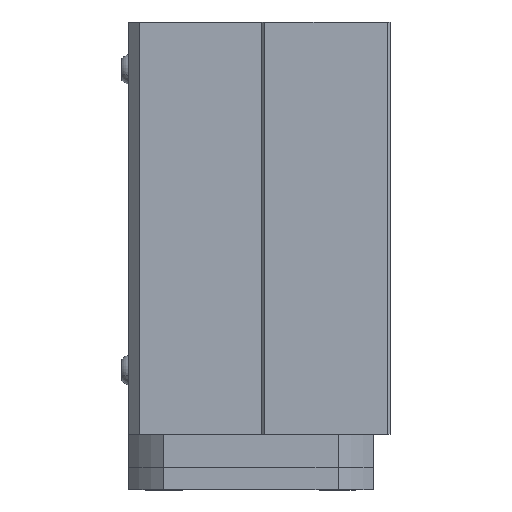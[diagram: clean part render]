
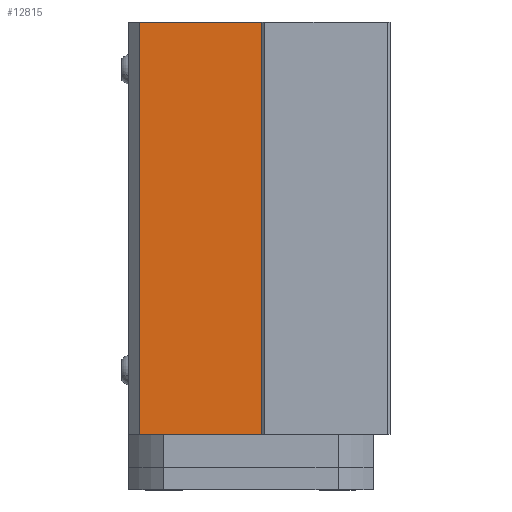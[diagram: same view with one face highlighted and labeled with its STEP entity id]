
A CAD part, left-side view. The second image highlights one B-rep face of the part: STEP entity #12815.
In plain terms, the highlighted planar face has unit normal (-1, 0, 0).
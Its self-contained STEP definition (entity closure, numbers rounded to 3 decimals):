
#84 = DIRECTION ( 'NONE',  ( 0., 0., 1. ) ) ;
#580 = VECTOR ( 'NONE', #13578, 1000. ) ;
#624 = VECTOR ( 'NONE', #13067, 1000. ) ;
#810 = LINE ( 'NONE', #1943, #580 ) ;
#867 = CARTESIAN_POINT ( 'NONE',  ( -22., -2., 0. ) ) ;
#1644 = ORIENTED_EDGE ( 'NONE', *, *, #3535, .T. ) ;
#1832 = CARTESIAN_POINT ( 'NONE',  ( -22., -2., -74. ) ) ;
#1943 = CARTESIAN_POINT ( 'NONE',  ( -22., -2., -74. ) ) ;
#1999 = LINE ( 'NONE', #867, #14918 ) ;
#2555 = PLANE ( 'NONE',  #8124 ) ;
#2591 = LINE ( 'NONE', #8734, #6139 ) ;
#2614 = ORIENTED_EDGE ( 'NONE', *, *, #9452, .F. ) ;
#3144 = DIRECTION ( 'NONE',  ( 0., -1., 0. ) ) ;
#3535 = EDGE_CURVE ( 'NONE', #13697, #15734, #12089, .T. ) ;
#5018 = FACE_OUTER_BOUND ( 'NONE', #10410, .T. ) ;
#5354 = DIRECTION ( 'NONE',  ( 0., 0., 1. ) ) ;
#6062 = CARTESIAN_POINT ( 'NONE',  ( -22., 20., 0. ) ) ;
#6139 = VECTOR ( 'NONE', #84, 1000. ) ;
#6228 = EDGE_CURVE ( 'NONE', #6497, #13697, #810, .T. ) ;
#6497 = VERTEX_POINT ( 'NONE', #7063 ) ;
#6922 = ORIENTED_EDGE ( 'NONE', *, *, #6228, .T. ) ;
#7063 = CARTESIAN_POINT ( 'NONE',  ( -22., 20., -74. ) ) ;
#8124 = AXIS2_PLACEMENT_3D ( 'NONE', #10129, #15119, #5354 ) ;
#8734 = CARTESIAN_POINT ( 'NONE',  ( -22., 20., -74. ) ) ;
#9452 = EDGE_CURVE ( 'NONE', #6497, #11461, #2591, .T. ) ;
#10081 = ORIENTED_EDGE ( 'NONE', *, *, #10175, .F. ) ;
#10129 = CARTESIAN_POINT ( 'NONE',  ( -22., -2., -74. ) ) ;
#10175 = EDGE_CURVE ( 'NONE', #11461, #15734, #1999, .T. ) ;
#10410 = EDGE_LOOP ( 'NONE', ( #10081, #2614, #6922, #1644 ) ) ;
#11461 = VERTEX_POINT ( 'NONE', #6062 ) ;
#12089 = LINE ( 'NONE', #1832, #624 ) ;
#12815 = ADVANCED_FACE ( 'NONE', ( #5018 ), #2555, .T. ) ;
#13067 = DIRECTION ( 'NONE',  ( 0., 0., 1. ) ) ;
#13578 = DIRECTION ( 'NONE',  ( 0., -1., 0. ) ) ;
#13697 = VERTEX_POINT ( 'NONE', #14710 ) ;
#13863 = CARTESIAN_POINT ( 'NONE',  ( -22., -2., 0. ) ) ;
#14710 = CARTESIAN_POINT ( 'NONE',  ( -22., -2., -74. ) ) ;
#14918 = VECTOR ( 'NONE', #3144, 1000. ) ;
#15119 = DIRECTION ( 'NONE',  ( -1., 0., 0. ) ) ;
#15734 = VERTEX_POINT ( 'NONE', #13863 ) ;
